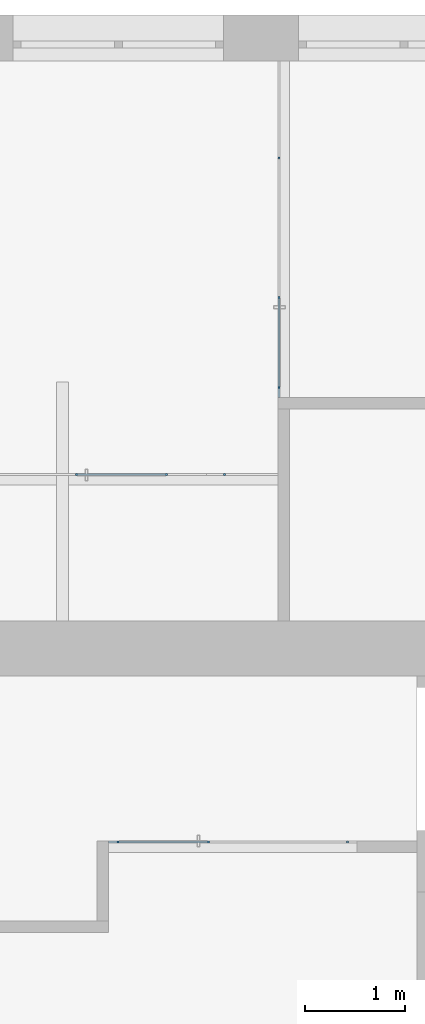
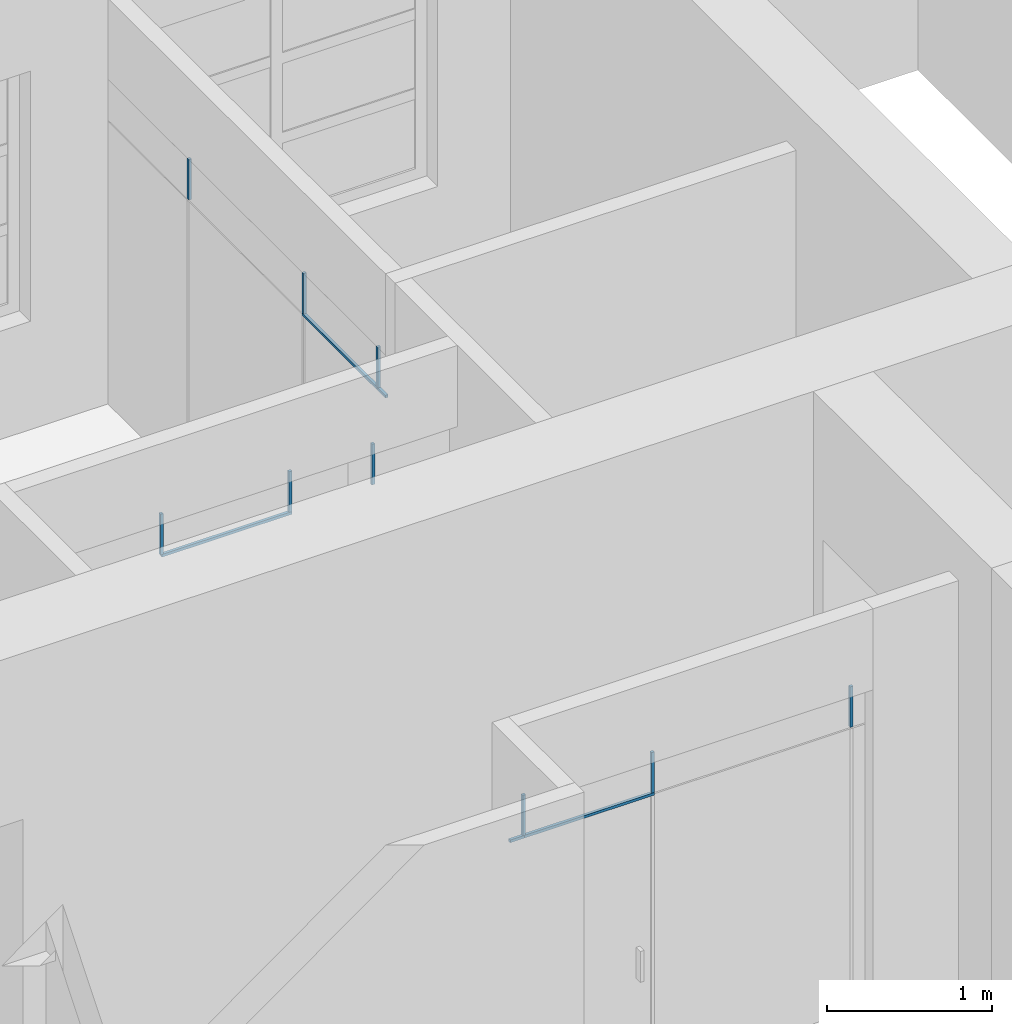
# One storey, part 11 of 73: 14 members, 3 elements without a shape of their own.
"""IFC2X3 building model written with IfcOpenShell, lengths in millimetres."""

from ifc_helpers import new_model, entity, si_unit, converted_unit, derived_unit, direction, frame, origin, origin_2d_with_axis, place, context, subcontext, project, spatial, rectangle, extrude, source, transform, mapped, material, type_object, type_shapes, element, aggregate, save


model = new_model("IFC2X3")

# Units and contexts
model_context = context("Model", 3, precision=0.01, world=origin(), true_north=direction((6.12303176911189e-17, 1.0)))
body_context = subcontext(model_context, "Body", "Model", "MODEL_VIEW")
ifc_project = project(units=[si_unit("LENGTHUNIT", "METRE", prefix="MILLI"), si_unit("AREAUNIT", "SQUARE_METRE"), si_unit("VOLUMEUNIT", "CUBIC_METRE"), converted_unit("PLANEANGLEUNIT", "DEGREE", entity("IfcRatioMeasure", 0.0174532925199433), si_unit("PLANEANGLEUNIT", "RADIAN"), dimensions=[0, 0, 0, 0, 0, 0, 0]), si_unit("MASSUNIT", "GRAM", prefix="KILO"), derived_unit("MASSDENSITYUNIT", [(si_unit("MASSUNIT", "GRAM", prefix="KILO"), 1), (si_unit("LENGTHUNIT", "METRE"), -3)]), si_unit("TIMEUNIT", "SECOND"), si_unit("FREQUENCYUNIT", "HERTZ"), si_unit("THERMODYNAMICTEMPERATUREUNIT", "DEGREE_CELSIUS"), derived_unit("THERMALTRANSMITTANCEUNIT", [(si_unit("MASSUNIT", "GRAM", prefix="KILO"), 1), (si_unit("THERMODYNAMICTEMPERATUREUNIT", "KELVIN"), -1), (si_unit("TIMEUNIT", "SECOND"), -3)]), derived_unit("VOLUMETRICFLOWRATEUNIT", [(si_unit("LENGTHUNIT", "METRE"), 3), (si_unit("TIMEUNIT", "SECOND"), -1)]), si_unit("ELECTRICCURRENTUNIT", "AMPERE"), si_unit("ELECTRICVOLTAGEUNIT", "VOLT"), si_unit("POWERUNIT", "WATT"), si_unit("FORCEUNIT", "NEWTON", prefix="KILO"), si_unit("ILLUMINANCEUNIT", "LUX"), si_unit("LUMINOUSFLUXUNIT", "LUMEN"), si_unit("LUMINOUSINTENSITYUNIT", "CANDELA"), derived_unit("USERDEFINED", [(si_unit("MASSUNIT", "GRAM", prefix="KILO"), -1), (si_unit("LENGTHUNIT", "METRE"), -2), (si_unit("TIMEUNIT", "SECOND"), 3), (si_unit("LUMINOUSFLUXUNIT", "LUMEN"), 1)]), derived_unit("LINEARVELOCITYUNIT", [(si_unit("LENGTHUNIT", "METRE"), 1), (si_unit("TIMEUNIT", "SECOND"), -1)]), si_unit("PRESSUREUNIT", "PASCAL"), derived_unit("USERDEFINED", [(si_unit("LENGTHUNIT", "METRE"), -2), (si_unit("MASSUNIT", "GRAM", prefix="KILO"), 1), (si_unit("TIMEUNIT", "SECOND"), -2)])], contexts=[model_context])

# Site, building, storey
site_placement = place(None, frame((-151.875543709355, 2715.0, 0.0)))
site = spatial("IfcSite", under=ifc_project, at=site_placement, Name="Surface", CompositionType="ELEMENT")
building_placement = place(site_placement, origin())
building = spatial("IfcBuilding", under=site, at=building_placement, CompositionType="ELEMENT")
storey_placement = place(building_placement, frame((0.0, 0.0, 6730.43000000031)))
storey = spatial("IfcBuildingStorey", under=building, at=storey_placement, Name="3 korrus", CompositionType="ELEMENT", Elevation=6730.43000000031)

# Curtain wall, members
curtain_wall_type_1 = type_object("IfcCurtainWallType", Name="Curtain Wall:Klaassein KLS-20", PredefinedType="NOTDEFINED")
curtain_wall_1_placement = place(storey_placement, frame((0.0, 0.0, -6730.43000000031)))
curtain_wall_1 = element("IfcCurtainWall", 1, at=curtain_wall_1_placement, inside=storey, type_object=curtain_wall_type_1, Name="Curtain Wall:Klaassein KLS-20", ObjectType="Curtain Wall:Klaassein KLS-20")
ifc_material = material(Name="__Uks_hele tamm")
member_type_1 = type_object("IfcMemberType", Name="20 x 20mm", PredefinedType="MEMBER")
shared_shape_1 = source(origin(), body_context, "Body", "SweptSolid", [
    extrude(rectangle(XDim=20.0, YDim=20.0, at=origin_2d_with_axis()), frame((0.0, 0.0, -300.0), z_axis=(0.0, 0.0, 1.0), x_axis=(0.0, -1.0, 0.0)), (0.0, 0.0, 1.0), 299.999999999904),
])
type_shapes(member_type_1, [shared_shape_1])
member_1_placement = place(storey_placement, frame((29851.0878393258, 4355.04493399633, 2100.0), z_axis=(0.0, 0.0, -1.0), x_axis=(-1.0, 0.0, 0.0)))
member_1 = element("IfcMember", 2, at=member_1_placement, type_object=member_type_1, material=ifc_material, Name="Rectangular Mullion:20 x 20mm", ObjectType="20 x 20mm", context=body_context, shape_type="MappedRepresentation", body=[
    mapped(shared_shape_1, transform((0.0, 0.0, 0.0), scale=1.0)),
])
member_2_placement = place(storey_placement, frame((28461.564726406, 4355.04493399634, 2100.0), z_axis=(0.0, 0.0, -1.0), x_axis=(-1.0, 0.0, 0.0)))
member_2 = element("IfcMember", 3, at=member_2_placement, type_object=member_type_1, material=ifc_material, Name="Rectangular Mullion:20 x 20mm", ObjectType="20 x 20mm", context=body_context, shape_type="MappedRepresentation", body=[
    mapped(shared_shape_1, transform((0.0, 0.0, 0.0), scale=1.0)),
])
member_3_placement = place(storey_placement, frame((27561.564726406, 4355.04493399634, 2100.0), z_axis=(0.0, 0.0, -1.0), x_axis=(-1.0, 0.0, 0.0)))
member_3 = element("IfcMember", 4, at=member_3_placement, type_object=member_type_1, material=ifc_material, Name="Rectangular Mullion:20 x 20mm", ObjectType="20 x 20mm", context=body_context, shape_type="MappedRepresentation", body=[
    mapped(shared_shape_1, transform((0.0, 0.0, 0.0), scale=1.0)),
])

curtain_wall_type_2 = type_object("IfcCurtainWallType", Name="Curtain Wall:Klaassein KLS-21", PredefinedType="NOTDEFINED")
curtain_wall_2_placement = place(storey_placement, frame((0.0, 0.0, -6730.43000000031)))
curtain_wall_2 = element("IfcCurtainWall", 5, at=curtain_wall_2_placement, inside=storey, type_object=curtain_wall_type_2, Name="Curtain Wall:Klaassein KLS-21", ObjectType="Curtain Wall:Klaassein KLS-21")
member_4_placement = place(storey_placement, frame((28623.0687011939, 8021.06145812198, 2100.0), z_axis=(0.0, 0.0, -1.0), x_axis=(-1.0, 0.0, 0.0)))
member_4 = element("IfcMember", 6, at=member_4_placement, type_object=member_type_1, material=ifc_material, Name="Rectangular Mullion:20 x 20mm", ObjectType="20 x 20mm", context=body_context, shape_type="MappedRepresentation", body=[
    mapped(shared_shape_1, transform((0.0, 0.0, 0.0), scale=1.0)),
])
member_5_placement = place(storey_placement, frame((28044.1393811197, 8021.06145812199, 2100.0), z_axis=(0.0, 0.0, -1.0), x_axis=(-1.0, 0.0, 0.0)))
member_5 = element("IfcMember", 7, at=member_5_placement, type_object=member_type_1, material=ifc_material, Name="Rectangular Mullion:20 x 20mm", ObjectType="20 x 20mm", context=body_context, shape_type="MappedRepresentation", body=[
    mapped(shared_shape_1, transform((0.0, 0.0, 0.0), scale=1.0)),
])
member_6_placement = place(storey_placement, frame((27144.1393811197, 8021.06145812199, 2100.0), z_axis=(0.0, 0.0, -1.0), x_axis=(-1.0, 0.0, 0.0)))
member_6 = element("IfcMember", 8, at=member_6_placement, type_object=member_type_1, material=ifc_material, Name="Rectangular Mullion:20 x 20mm", ObjectType="20 x 20mm", context=body_context, shape_type="MappedRepresentation", body=[
    mapped(shared_shape_1, transform((0.0, 0.0, 0.0), scale=1.0)),
])

curtain_wall_type_3 = type_object("IfcCurtainWallType", Name="Curtain Wall:Klaassein KLS-22", PredefinedType="NOTDEFINED")
curtain_wall_3_placement = place(storey_placement, frame((0.0, 0.0, -6730.43000000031)))
curtain_wall_3 = element("IfcCurtainWall", 9, at=curtain_wall_3_placement, inside=storey, type_object=curtain_wall_type_3, Name="Curtain Wall:Klaassein KLS-22", ObjectType="Curtain Wall:Klaassein KLS-22")
member_7_placement = place(storey_placement, frame((29165.6162681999, 11179.3528367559, 2100.0), z_axis=(0.0, 0.0, -1.0), x_axis=(0.0, -1.0, 0.0)))
member_7 = element("IfcMember", 10, at=member_7_placement, type_object=member_type_1, material=ifc_material, Name="Rectangular Mullion:20 x 20mm", ObjectType="20 x 20mm", context=body_context, shape_type="MappedRepresentation", body=[
    mapped(shared_shape_1, transform((0.0, 0.0, 0.0), scale=1.0)),
])
member_8_placement = place(storey_placement, frame((29165.6162681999, 9789.82972383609, 2100.0), z_axis=(0.0, 0.0, -1.0), x_axis=(0.0, -1.0, 0.0)))
member_8 = element("IfcMember", 11, at=member_8_placement, type_object=member_type_1, material=ifc_material, Name="Rectangular Mullion:20 x 20mm", ObjectType="20 x 20mm", context=body_context, shape_type="MappedRepresentation", body=[
    mapped(shared_shape_1, transform((0.0, 0.0, 0.0), scale=1.0)),
])
member_9_placement = place(storey_placement, frame((29165.6162681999, 8889.8297238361, 2100.0), z_axis=(0.0, 0.0, -1.0), x_axis=(0.0, -1.0, 0.0)))
member_9 = element("IfcMember", 12, at=member_9_placement, type_object=member_type_1, material=ifc_material, Name="Rectangular Mullion:20 x 20mm", ObjectType="20 x 20mm", context=body_context, shape_type="MappedRepresentation", body=[
    mapped(shared_shape_1, transform((0.0, 0.0, 0.0), scale=1.0)),
])

# Member
member_type_2 = type_object("IfcMemberType", Name="20 x 20mm", PredefinedType="MEMBER")
shared_shape_2 = source(origin(), body_context, "Body", "SweptSolid", [
    extrude(rectangle(XDim=20.0, YDim=20.0, at=origin_2d_with_axis()), frame((0.0, 0.0, -910.0), z_axis=(0.0, 0.0, 1.0), x_axis=(0.0, -1.0, 0.0)), (0.0, 0.0, 1.0), 909.999999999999),
])
type_shapes(member_type_2, [shared_shape_2])
member_10_placement = place(storey_placement, frame((27561.564726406, 4355.04493399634, 2090.0), z_axis=(-1.0, 0.0, 0.0), x_axis=(0.0, 0.0, 1.0)))
member_10 = element("IfcMember", 13, at=member_10_placement, type_object=member_type_2, material=ifc_material, Name="Rectangular Mullion:20 x 20mm", ObjectType="20 x 20mm", context=body_context, shape_type="MappedRepresentation", body=[
    mapped(shared_shape_2, transform((0.0, 0.0, 0.0), scale=1.0)),
])

member_11_placement = place(storey_placement, frame((27144.1393811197, 8021.06145812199, 2090.0), z_axis=(-1.0, 0.0, 0.0), x_axis=(0.0, 0.0, 1.0)))
member_11 = element("IfcMember", 14, at=member_11_placement, type_object=member_type_2, material=ifc_material, Name="Rectangular Mullion:20 x 20mm", ObjectType="20 x 20mm", context=body_context, shape_type="MappedRepresentation", body=[
    mapped(shared_shape_2, transform((0.0, 0.0, 0.0), scale=1.0)),
])

aggregate(curtain_wall_2, [member_4, member_5, member_11, member_6])

member_12_placement = place(storey_placement, frame((29165.6162681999, 8889.8297238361, 2090.0), z_axis=(0.0, -1.0, 0.0), x_axis=(0.0, 0.0, 1.0)))
member_12 = element("IfcMember", 15, at=member_12_placement, type_object=member_type_2, material=ifc_material, Name="Rectangular Mullion:20 x 20mm", ObjectType="20 x 20mm", context=body_context, shape_type="MappedRepresentation", body=[
    mapped(shared_shape_2, transform((0.0, 0.0, 0.0), scale=1.0)),
])

member_type_3 = type_object("IfcMemberType", Name="20 x 20mm", PredefinedType="MEMBER")
shared_shape_3 = source(origin(), body_context, "Body", "SweptSolid", [
    extrude(rectangle(XDim=20.0, YDim=20.0, at=origin_2d_with_axis()), frame((0.0, 0.0, -98.0), z_axis=(0.0, 0.0, 1.0), x_axis=(0.0, -1.0, 0.0)), (0.0, 0.0, 1.0), 97.9999999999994),
])
type_shapes(member_type_3, [shared_shape_3])
member_13_placement = place(storey_placement, frame((27463.564726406, 4355.04493399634, 2090.0), z_axis=(-1.0, 0.0, 0.0), x_axis=(0.0, 0.0, 1.0)))
member_13 = element("IfcMember", 16, at=member_13_placement, type_object=member_type_3, material=ifc_material, Name="Rectangular Mullion:20 x 20mm", ObjectType="20 x 20mm", context=body_context, shape_type="MappedRepresentation", body=[
    mapped(shared_shape_3, transform((0.0, 0.0, 0.0), scale=1.0)),
])

aggregate(curtain_wall_1, [member_1, member_2, member_10, member_13, member_3])

member_type_4 = type_object("IfcMemberType", Name="20 x 20mm", PredefinedType="MEMBER")
shared_shape_4 = source(origin(), body_context, "Body", "SweptSolid", [
    extrude(rectangle(XDim=20.0, YDim=20.0, at=origin_2d_with_axis()), frame((0.0, 0.0, -100.0), z_axis=(0.0, 0.0, 1.0), x_axis=(0.0, -1.0, 0.0)), (0.0, 0.0, 1.0), 99.9999999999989),
])
type_shapes(member_type_4, [shared_shape_4])
member_14_placement = place(storey_placement, frame((29165.6162681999, 8789.82972383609, 2090.0), z_axis=(0.0, -1.0, 0.0), x_axis=(0.0, 0.0, 1.0)))
member_14 = element("IfcMember", 17, at=member_14_placement, type_object=member_type_4, material=ifc_material, Name="Rectangular Mullion:20 x 20mm", ObjectType="20 x 20mm", context=body_context, shape_type="MappedRepresentation", body=[
    mapped(shared_shape_4, transform((0.0, 0.0, 0.0), scale=1.0)),
])

aggregate(curtain_wall_3, [member_7, member_8, member_12, member_14, member_9])

save(model, "model.ifc")
